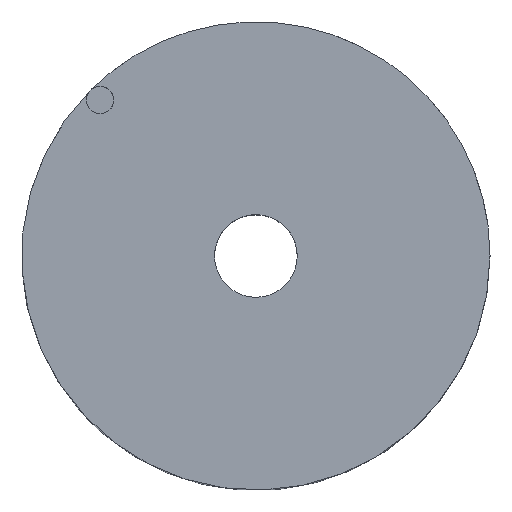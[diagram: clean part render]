
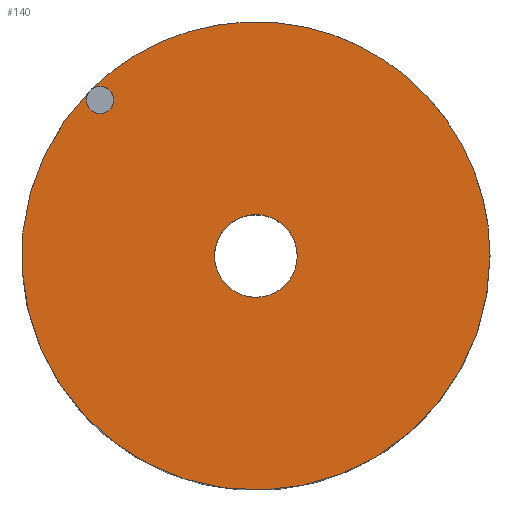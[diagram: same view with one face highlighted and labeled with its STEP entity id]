
A CAD part, top view. The second image highlights one B-rep face of the part: STEP entity #140.
In plain terms, the highlighted planar face has unit normal (0, 0, 1).
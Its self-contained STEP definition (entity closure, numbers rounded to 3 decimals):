
#127=PLANE('',#325);
#140=ADVANCED_FACE('',(#159,#160),#127,.T.);
#159=FACE_BOUND('',#177,.T.);
#160=FACE_BOUND('',#178,.T.);
#177=EDGE_LOOP('',(#217,#218,#219,#220,#221,#222,#223,#224,#225));
#178=EDGE_LOOP('',(#226));
#217=ORIENTED_EDGE('',*,*,#275,.F.);
#218=ORIENTED_EDGE('',*,*,#275,.T.);
#219=ORIENTED_EDGE('',*,*,#276,.F.);
#220=ORIENTED_EDGE('',*,*,#274,.F.);
#221=ORIENTED_EDGE('',*,*,#277,.F.);
#222=ORIENTED_EDGE('',*,*,#278,.T.);
#223=ORIENTED_EDGE('',*,*,#279,.T.);
#224=ORIENTED_EDGE('',*,*,#279,.F.);
#225=ORIENTED_EDGE('',*,*,#278,.F.);
#226=ORIENTED_EDGE('',*,*,#255,.T.);
#235=VERTEX_POINT('',#400);
#249=VERTEX_POINT('',#495);
#250=VERTEX_POINT('',#498);
#251=VERTEX_POINT('',#499);
#252=VERTEX_POINT('',#503);
#253=VERTEX_POINT('',#505);
#255=EDGE_CURVE('',#235,#235,#281,.T.);
#274=EDGE_CURVE('',#249,#249,#292,.T.);
#275=EDGE_CURVE('',#250,#251,#293,.T.);
#276=EDGE_CURVE('',#249,#251,#294,.T.);
#277=EDGE_CURVE('',#251,#249,#295,.T.);
#278=EDGE_CURVE('',#251,#252,#296,.T.);
#279=EDGE_CURVE('',#252,#253,#297,.T.);
#281=CIRCLE('',#300,2.65);
#292=CIRCLE('',#318,15.);
#293=CIRCLE('',#320,13.25);
#294=CIRCLE('',#321,0.875);
#295=CIRCLE('',#322,0.875);
#296=CIRCLE('',#323,13.25);
#297=CIRCLE('',#324,13.25);
#300=AXIS2_PLACEMENT_3D('',#399,#332,#333);
#318=AXIS2_PLACEMENT_3D('',#494,#374,#375);
#320=AXIS2_PLACEMENT_3D('',#497,#378,#379);
#321=AXIS2_PLACEMENT_3D('',#500,#380,#381);
#322=AXIS2_PLACEMENT_3D('',#501,#382,#383);
#323=AXIS2_PLACEMENT_3D('',#502,#384,#385);
#324=AXIS2_PLACEMENT_3D('',#504,#386,#387);
#325=AXIS2_PLACEMENT_3D('',#506,#388,#389);
#332=DIRECTION('',(0.,0.,-1.));
#333=DIRECTION('',(1.,0.,0.));
#374=DIRECTION('',(0.,0.,-1.));
#375=DIRECTION('',(1.,0.,0.));
#378=DIRECTION('',(0.,0.,-1.));
#379=DIRECTION('',(-0.239,-0.971,0.));
#380=DIRECTION('',(0.,0.,1.));
#381=DIRECTION('',(1.,0.,0.));
#382=DIRECTION('',(0.,0.,1.));
#383=DIRECTION('',(1.,0.,0.));
#384=DIRECTION('',(0.,0.,-1.));
#385=DIRECTION('',(0.239,0.971,0.));
#386=DIRECTION('',(0.,0.,-1.));
#387=DIRECTION('',(-0.239,-0.971,0.));
#388=DIRECTION('',(0.,0.,1.));
#389=DIRECTION('',(1.,0.,0.));
#399=CARTESIAN_POINT('',(0.,0.,16.));
#400=CARTESIAN_POINT('',(2.65,0.,16.));
#494=CARTESIAN_POINT('',(0.,0.,16.));
#495=CARTESIAN_POINT('',(-10.607,10.607,16.));
#497=CARTESIAN_POINT('',(0.,0.,16.));
#498=CARTESIAN_POINT('',(-12.865,3.173,16.));
#499=CARTESIAN_POINT('',(-9.369,9.369,16.));
#500=CARTESIAN_POINT('',(-9.988,9.988,16.));
#501=CARTESIAN_POINT('',(-9.988,9.988,16.));
#502=CARTESIAN_POINT('',(0.,0.,16.));
#503=CARTESIAN_POINT('',(13.25,0.,16.));
#504=CARTESIAN_POINT('',(0.,0.,16.));
#505=CARTESIAN_POINT('',(-12.865,-3.173,16.));
#506=CARTESIAN_POINT('',(-16.5,-16.331,16.));
